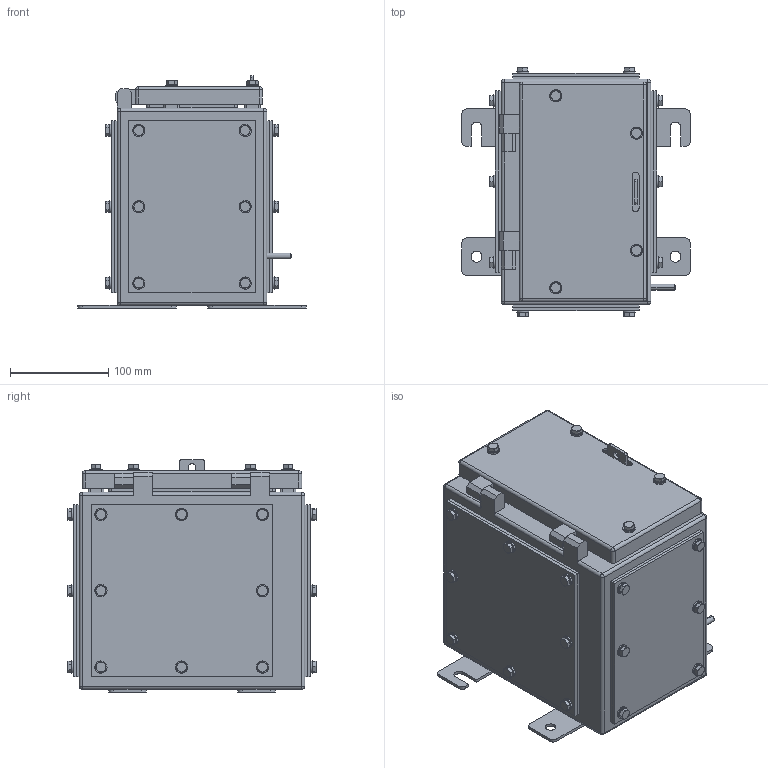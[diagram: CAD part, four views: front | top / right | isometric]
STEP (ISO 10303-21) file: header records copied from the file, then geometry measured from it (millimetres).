
FILE_DESCRIPTION (( 'STEP AP203' ), '1' );
FILE_NAME ('SX0_200 4GP.STEP', '2021-05-21T07:05:25', ( '' ), ( '' ), 'SwSTEP 2.0', 'SolidWorks 2020', '' );
FILE_SCHEMA (( 'CONFIG_CONTROL_DESIGN' ));
Length unit declared in the file: millimetre
Products named in the file (10): plain washer form a_bsi_Bright washer BS 4320 - M6 (Form A); SX0 Door; SX0_200 4GP; SX0-200 Base Gasket; SX0-200 Base Gland plate; SX0-200 side Gasket; SX0_200 4GP Body; SX0-200 side Gland plate; hex screw gradec_bsi_BS EN 24018 - M6 x 16-WN; hex screw gradec_bsi_BS EN 24018 - M6 x 20-WN
Assembly tree (74 placements, depth 2):
  SX0_200 4GP
    SX0_200 4GP Body
    SX0 Door
    plain washer form a_bsi_Bright washer BS 4320 - M6 (Form A)  x32
    hex screw gradec_bsi_BS EN 24018 - M6 x 20-WN  x4
    SX0-200 side Gasket  x2
    SX0-200 side Gland plate  x2
    SX0-200 Base Gland plate  x2
    SX0-200 Base Gasket  x2
    hex screw gradec_bsi_BS EN 24018 - M6 x 16-WN  x28
Bounding box: 232 x 252.95 x 236 mm (x, y, z)
Volume: 966349 mm3; surface area: 784363.1 mm2
Topology: 74 solids, 74 shells, 1794 faces, 3938 edges, 2376 vertices
Faces by surface type: plane 822, cylinder 660, cone 264, sphere 40, torus 8
Entity records: 23158 total; most frequent: DIRECTION 3884, CARTESIAN_POINT 3495, ORIENTED_EDGE 3188, EDGE_CURVE 1594, AXIS2_PLACEMENT_3D 1533, VERTEX_POINT 1000, EDGE_LOOP 882, LINE 818
